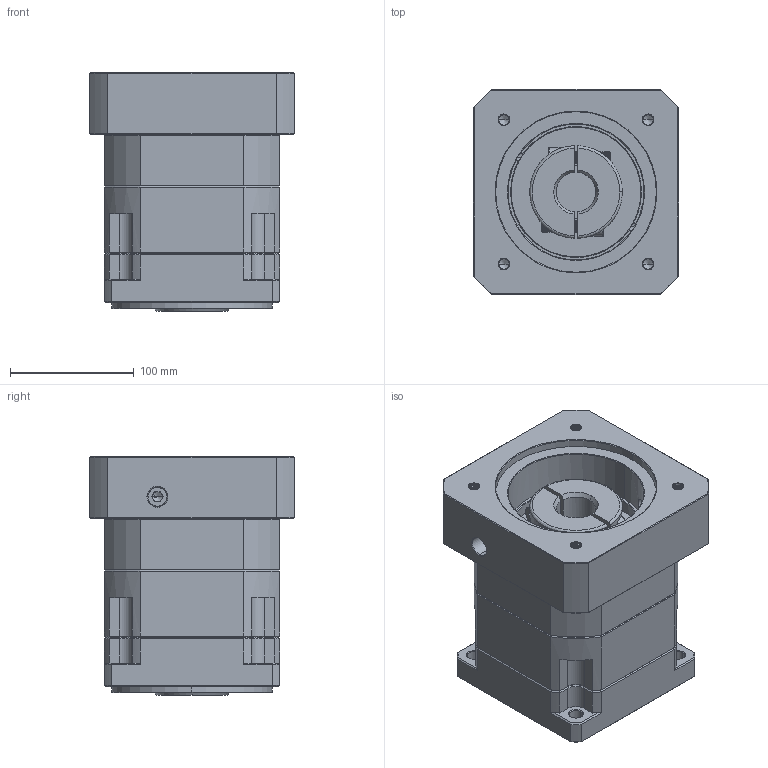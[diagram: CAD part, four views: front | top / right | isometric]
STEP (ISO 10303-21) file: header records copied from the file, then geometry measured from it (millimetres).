
FILE_DESCRIPTION (( 'STEP AP214' ), '1' );
FILE_NAME ('ZB142A-K35-L1-P2-32-130-165-M10.step', '2023-09-01T11:46:00', ( '' ), ( '' ), 'SwSTEP 2.0', 'SolidWorks 2016', '' );
FILE_SCHEMA (( 'AUTOMOTIVE_DESIGN' ));
Length unit declared in the file: millimetre
Products named in the file (1): ZB142A-K35-L1-P2-32-130-165-M10
Bounding box: 166 x 166 x 193.2 mm (x, y, z)
Volume: 3426421.2 mm3; surface area: 298839.1 mm2
Topology: 6 solids, 6 shells, 2261 faces, 6066 edges, 3908 vertices
Faces by surface type: plane 1096, bspline 404, cylinder 395, cone 346, torus 20
Entity records: 122861 total; most frequent: CARTESIAN_POINT 44497, ORIENTED_EDGE 12076, DIRECTION 9601, EDGE_CURVE 6038, VERTEX_POINT 3908, LINE 3847, VECTOR 3847, AXIS2_PLACEMENT_3D 2877
